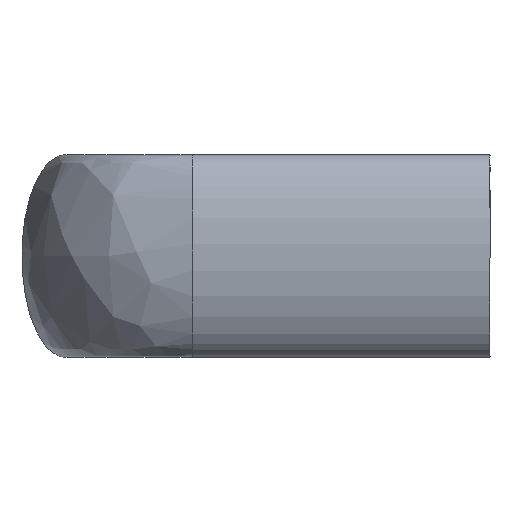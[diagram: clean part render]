
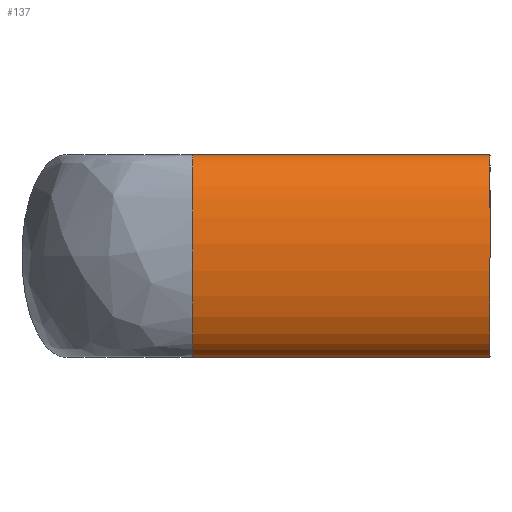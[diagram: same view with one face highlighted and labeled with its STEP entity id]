
A CAD part, left-side view. The second image highlights one B-rep face of the part: STEP entity #137.
In plain terms, the highlighted free-form (B-spline) face has degree [3, 1] with [4, 2] control points.
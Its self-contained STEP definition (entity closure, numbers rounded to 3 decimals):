
#20 = VERTEX_POINT ( 'NONE', #279 ) ;
#61 = CARTESIAN_POINT ( 'NONE',  ( -75., -10., -8. ) ) ;
#86 = ORIENTED_EDGE ( 'NONE', *, *, #92, .F. ) ;
#92 = EDGE_CURVE ( 'NONE', #603, #470, #304, .T. ) ;
#126 =( BOUNDED_CURVE ( )  B_SPLINE_CURVE ( 3, ( #553, #505, #514, #512 ),
 .UNSPECIFIED., .F., .F. ) 
 B_SPLINE_CURVE_WITH_KNOTS ( ( 4, 4 ),
 ( 3.142, 6.283 ),
 .UNSPECIFIED. ) 
 CURVE ( )  GEOMETRIC_REPRESENTATION_ITEM ( )  RATIONAL_B_SPLINE_CURVE ( ( 1., 0.333, 0.333, 1. ) ) 
 REPRESENTATION_ITEM ( '' )  );
#137 = ADVANCED_FACE ( 'NONE', ( #266 ), #554, .T. ) ;
#161 = CARTESIAN_POINT ( 'NONE',  ( -75., -10., 8. ) ) ;
#164 = CARTESIAN_POINT ( 'NONE',  ( -82., -10., 8. ) ) ;
#167 = CARTESIAN_POINT ( 'NONE',  ( -82., -33.5, 8. ) ) ;
#172 = CARTESIAN_POINT ( 'NONE',  ( -82., -10., -8. ) ) ;
#175 = CARTESIAN_POINT ( 'NONE',  ( -82., -33.5, -8. ) ) ;
#177 = CARTESIAN_POINT ( 'NONE',  ( -75., -10., -8. ) ) ;
#178 = CARTESIAN_POINT ( 'NONE',  ( -75., -33.5, -8. ) ) ;
#210 = CARTESIAN_POINT ( 'NONE',  ( -75., -33.5, 8. ) ) ;
#216 = CARTESIAN_POINT ( 'NONE',  ( -75., -10., -8. ) ) ;
#219 =( BOUNDED_CURVE ( )  B_SPLINE_CURVE ( 3, ( #277, #228, #248, #253 ),
 .UNSPECIFIED., .F., .T. ) 
 B_SPLINE_CURVE_WITH_KNOTS ( ( 4, 4 ),
 ( 3.142, 6.283 ),
 .UNSPECIFIED. ) 
 CURVE ( )  GEOMETRIC_REPRESENTATION_ITEM ( )  RATIONAL_B_SPLINE_CURVE ( ( 1., 0.333, 0.333, 1. ) ) 
 REPRESENTATION_ITEM ( '' )  );
#228 = CARTESIAN_POINT ( 'NONE',  ( -82., -10., 8. ) ) ;
#248 = CARTESIAN_POINT ( 'NONE',  ( -82., -10., -8. ) ) ;
#253 = CARTESIAN_POINT ( 'NONE',  ( -75., -10., -8. ) ) ;
#266 = FACE_OUTER_BOUND ( 'NONE', #376, .T. ) ;
#277 = CARTESIAN_POINT ( 'NONE',  ( -75., -10., 8. ) ) ;
#279 = CARTESIAN_POINT ( 'NONE',  ( -75., -33.5, -8. ) ) ;
#283 = DIRECTION ( 'NONE',  ( 0., -1., 0. ) ) ;
#285 = ORIENTED_EDGE ( 'NONE', *, *, #542, .T. ) ;
#304 = LINE ( 'NONE', #625, #551 ) ;
#322 = VECTOR ( 'NONE', #283, 1000. ) ;
#339 = LINE ( 'NONE', #216, #322 ) ;
#356 = ORIENTED_EDGE ( 'NONE', *, *, #535, .T. ) ;
#365 = EDGE_CURVE ( 'NONE', #470, #20, #126, .T. ) ;
#376 = EDGE_LOOP ( 'NONE', ( #86, #356, #285, #498 ) ) ;
#451 = VERTEX_POINT ( 'NONE', #61 ) ;
#455 = DIRECTION ( 'NONE',  ( 0., -1., 0. ) ) ;
#470 = VERTEX_POINT ( 'NONE', #652 ) ;
#498 = ORIENTED_EDGE ( 'NONE', *, *, #365, .F. ) ;
#505 = CARTESIAN_POINT ( 'NONE',  ( -82., -33.5, 8. ) ) ;
#512 = CARTESIAN_POINT ( 'NONE',  ( -75., -33.5, -8. ) ) ;
#514 = CARTESIAN_POINT ( 'NONE',  ( -82., -33.5, -8. ) ) ;
#535 = EDGE_CURVE ( 'NONE', #603, #451, #219, .T. ) ;
#542 = EDGE_CURVE ( 'NONE', #451, #20, #339, .T. ) ;
#551 = VECTOR ( 'NONE', #455, 1000. ) ;
#553 = CARTESIAN_POINT ( 'NONE',  ( -75., -33.5, 8. ) ) ;
#554 =( BOUNDED_SURFACE ( )  B_SPLINE_SURFACE ( 3, 1, ( 
 ( #161, #210 ),
 ( #164, #167 ),
 ( #172, #175 ),
 ( #177, #178 ) ),
 .UNSPECIFIED., .F., .F., .F. ) 
 B_SPLINE_SURFACE_WITH_KNOTS ( ( 4, 4 ),
 ( 2, 2 ),
 ( 0., 1. ),
 ( 0., 1. ),
 .UNSPECIFIED. ) 
 GEOMETRIC_REPRESENTATION_ITEM ( )  RATIONAL_B_SPLINE_SURFACE ( (
 ( 1., 1.),
 ( 0.333, 0.333),
 ( 0.333, 0.333),
 ( 1., 1.) ) ) 
 REPRESENTATION_ITEM ( '' )  SURFACE ( )  );
#574 = CARTESIAN_POINT ( 'NONE',  ( -75., -10., 8. ) ) ;
#603 = VERTEX_POINT ( 'NONE', #574 ) ;
#625 = CARTESIAN_POINT ( 'NONE',  ( -75., -10., 8. ) ) ;
#652 = CARTESIAN_POINT ( 'NONE',  ( -75., -33.5, 8. ) ) ;
